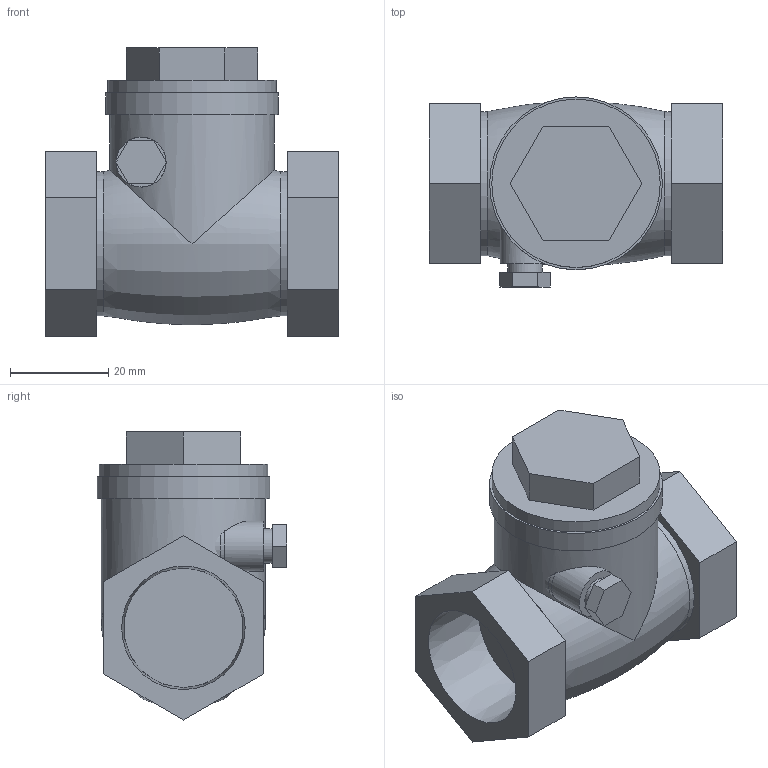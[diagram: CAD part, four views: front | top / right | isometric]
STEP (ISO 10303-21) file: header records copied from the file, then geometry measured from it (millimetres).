
FILE_DESCRIPTION(('Open CASCADE Model'),'2;1');
FILE_NAME('Open CASCADE Shape Model','2019-12-13T15:49:26',('Author'),( 'Open CASCADE'),'Open CASCADE STEP processor 7.3','Open CASCADE 7.3' ,'Unknown');
FILE_SCHEMA(('AUTOMOTIVE_DESIGN { 1 0 10303 214 1 1 1 1 }'));
Length unit declared in the file: millimetre
Products named in the file (5): Open CASCADE STEP translator 7.3 1; Open CASCADE STEP translator 7.3 1.1; Open CASCADE STEP translator 7.3 1.2; Open CASCADE STEP translator 7.3 1.3; Open CASCADE STEP translator 7.3 1.4
Assembly tree (4 placements, depth 2):
  Open CASCADE STEP translator 7.3 1
    Open CASCADE STEP translator 7.3 1.1
    Open CASCADE STEP translator 7.3 1.2
    Open CASCADE STEP translator 7.3 1.3
    Open CASCADE STEP translator 7.3 1.4
Bounding box: 59.82 x 38.67 x 58.65 mm (x, y, z)
Volume: 58589.1 mm3; surface area: 16240.4 mm2
Topology: 4 solids, 4 shells, 53 faces, 115 edges, 78 vertices
Faces by surface type: plane 42, cylinder 8, cone 2, revolution 1
Full cylindrical faces by diameter (mm): 6.985 x1, 10.16 x2, 29.337 x2, 33.401 x1, 34.29 x1, 35.179 x1
Entity records: 3908 total; most frequent: CARTESIAN_POINT 1477, DIRECTION 433, LINE 264, VECTOR 264, ORIENTED_EDGE 230, PCURVE 230, DEFINITIONAL_REPRESENTATION 230, EDGE_CURVE 115
